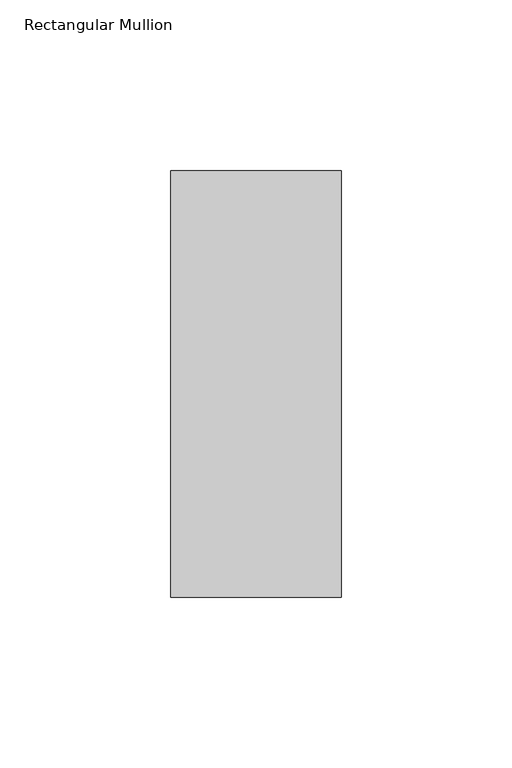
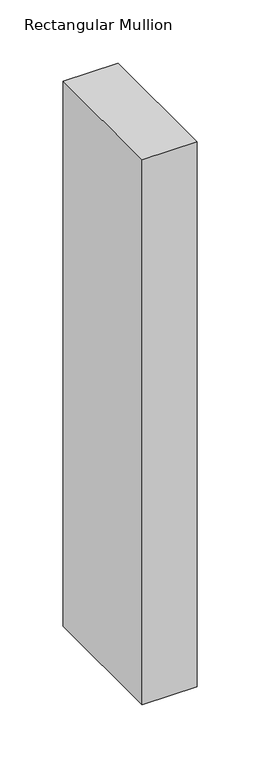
"""IFC4 building model written with IfcOpenShell, lengths in millimetres: member geometry, Rectangular Mullion : DucoSun Cubic Design profile 50x125 for louvre 300."""

from ifc_helpers import new_model, si_unit, frame, origin, place, context, project, spatial, polyline, outline, extrude, source, transform, mapped, element, save


def rectangular_mullion_4e4cd716(model_context):
    return source(origin(), model_context, "Body", "SweptSolid", [
        extrude(outline(polyline([(-50.0, 87.5), (-50.0, 212.5), (0.0, 212.5), (0.0, 87.5), (-50.0, 87.5)])), frame((0.0, 0.0, -525.5000002), z_axis=(0.0, 0.0, 1.0), x_axis=(1.0, 0.0, 0.0)), (0.0, 0.0, 1.0), 525.5000002),
    ])


if __name__ == "__main__":
    model = new_model("IFC4")
    model_context = context("Model", 3, world=origin())
    ifc_project = project(units=[si_unit("LENGTHUNIT", "METRE", prefix="MILLI")], contexts=[model_context])
    site = spatial("IfcSite", under=ifc_project)
    building = spatial("IfcBuilding", under=site)
    placement = place(None, origin())
    rectangular_mullion_shape = rectangular_mullion_4e4cd716(model_context)
    element("IfcMember", 1, ObjectType="Rectangular Mullion : DucoSun Cubic Design profile 50x125 for louvre 300", at=placement, inside=building, context=model_context, shape_type="MappedRepresentation", body=[
        mapped(rectangular_mullion_shape, transform((0.0, 0.0, 0.0), x_axis=(1.0, 0.0, 0.0), y_axis=(0.0, 1.0, 0.0), z_axis=(0.0, 0.0, 1.0))),
    ])
    save(model, "model.ifc")
